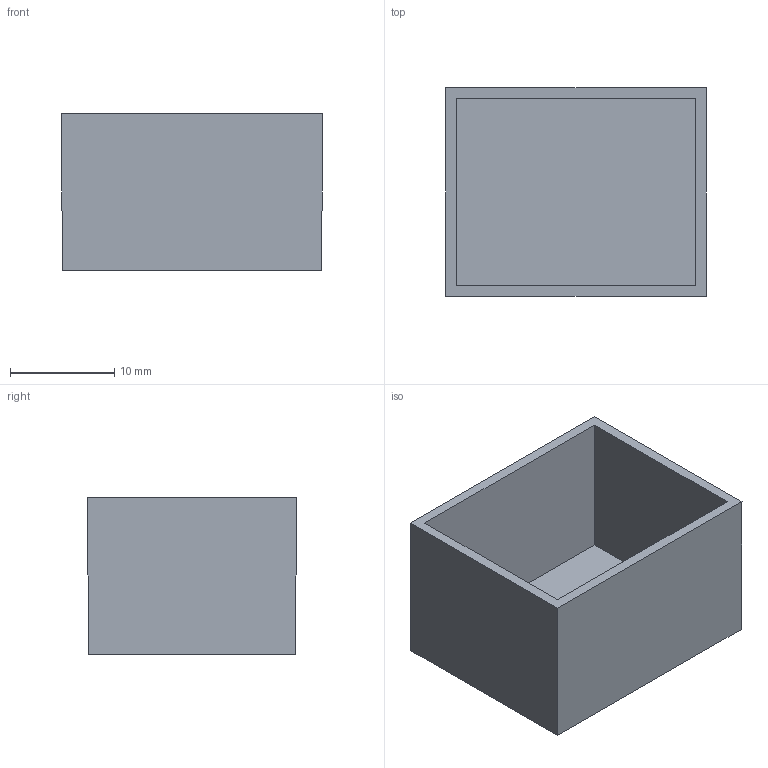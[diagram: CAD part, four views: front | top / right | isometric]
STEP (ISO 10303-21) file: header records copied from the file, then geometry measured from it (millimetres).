
FILE_DESCRIPTION((''),'2;1');
FILE_NAME('E:\Eng\Customer Service\Drawings\1596\STEP FILES\1596B101.stp','2010-11-04T15:48:25',('tcook'),(''),'Autodesk Inventor 2011','Autodesk Inventor 2011','');
FILE_SCHEMA(('AUTOMOTIVE_DESIGN { 1 0 10303 214 1 1 1 1 }'));
Length unit declared in the file: millimetre
Products named in the file (1): 1596B101
Bounding box: 25 x 20 x 15 mm (x, y, z)
Volume: 1694.9 mm3; surface area: 3479.8 mm2
Topology: 1 solids, 1 shells, 11 faces, 24 edges, 16 vertices
Faces by surface type: plane 11
Entity records: 324 total; most frequent: CARTESIAN_POINT 52, DIRECTION 48, ORIENTED_EDGE 48, VECTOR 24, LINE 24, EDGE_CURVE 24, VERTEX_POINT 16, AXIS2_PLACEMENT_3D 12
